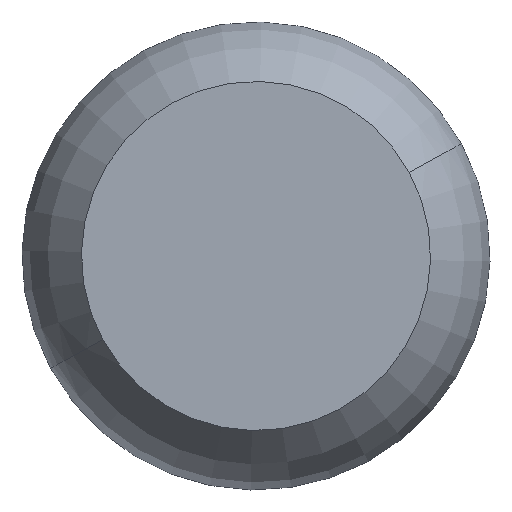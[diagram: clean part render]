
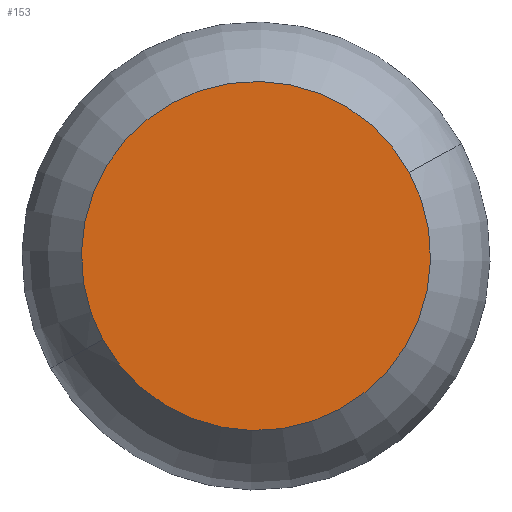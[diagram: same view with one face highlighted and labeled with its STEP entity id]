
A CAD part, front view. The second image highlights one B-rep face of the part: STEP entity #153.
In plain terms, the highlighted planar face has unit normal (0, -1, 0).
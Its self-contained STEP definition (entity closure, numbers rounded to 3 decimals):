
#66=CARTESIAN_POINT('Axis2P3D Location',(0.,0.,0.)) ;
#70=CARTESIAN_POINT('Vertex',(80.738,0.,44.107)) ;
#72=CARTESIAN_POINT('Vertex',(-80.738,0.,-44.107)) ;
#127=CARTESIAN_POINT('Axis2P3D Location',(0.,0.,0.)) ;
#144=CARTESIAN_POINT('Axis2P3D Location',(0.,0.,0.)) ;
#67=DIRECTION('Axis2P3D Direction',(0.,-1.,0.)) ;
#128=DIRECTION('Axis2P3D Direction',(0.,-1.,0.)) ;
#145=DIRECTION('Axis2P3D Direction',(0.,-1.,0.)) ;
#146=DIRECTION('Axis2P3D XDirection',(1.,0.,0.)) ;
#68=AXIS2_PLACEMENT_3D('Circle Axis2P3D',#66,#67,$) ;
#129=AXIS2_PLACEMENT_3D('Circle Axis2P3D',#127,#128,$) ;
#147=AXIS2_PLACEMENT_3D('Plane Axis2P3D',#144,#145,#146) ;
#150=ORIENTED_EDGE('',*,*,#74,.T.) ;
#151=ORIENTED_EDGE('',*,*,#131,.T.) ;
#153=ADVANCED_FACE('PartBody',(#152),#148,.T.) ;
#69=CIRCLE('generated circle',#68,92.) ;
#130=CIRCLE('generated circle',#129,92.) ;
#74=EDGE_CURVE('',#71,#73,#69,.T.) ;
#131=EDGE_CURVE('',#73,#71,#130,.T.) ;
#149=EDGE_LOOP('',(#150,#151)) ;
#152=FACE_OUTER_BOUND('',#149,.T.) ;
#148=PLANE('',#147) ;
#71=VERTEX_POINT('',#70) ;
#73=VERTEX_POINT('',#72) ;
